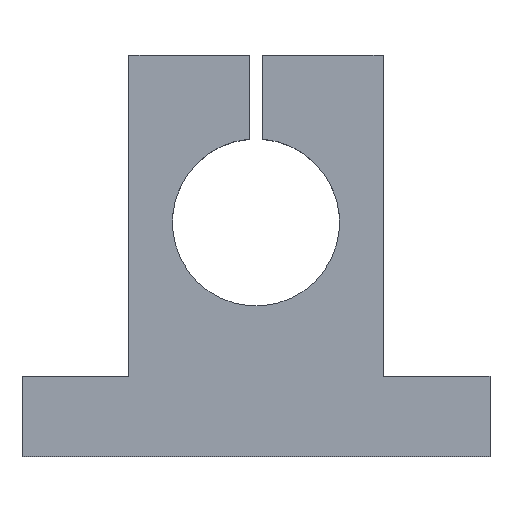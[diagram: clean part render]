
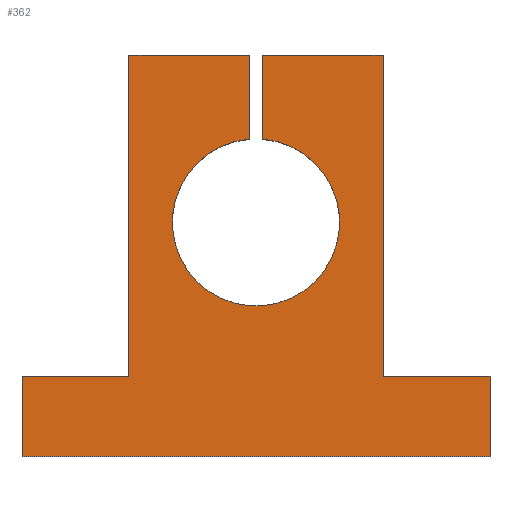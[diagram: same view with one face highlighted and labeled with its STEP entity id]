
A CAD part, top view. The second image highlights one B-rep face of the part: STEP entity #362.
In plain terms, the highlighted planar face has unit normal (0, 0, 1).
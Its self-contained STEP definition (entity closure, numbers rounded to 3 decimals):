
#27=CIRCLE('',#397,12.5);
#47=ORIENTED_EDGE('',*,*,#139,.F.);
#48=ORIENTED_EDGE('',*,*,#135,.T.);
#49=ORIENTED_EDGE('',*,*,#140,.T.);
#50=ORIENTED_EDGE('',*,*,#141,.T.);
#51=ORIENTED_EDGE('',*,*,#142,.T.);
#52=ORIENTED_EDGE('',*,*,#143,.T.);
#53=ORIENTED_EDGE('',*,*,#144,.T.);
#54=ORIENTED_EDGE('',*,*,#145,.T.);
#55=ORIENTED_EDGE('',*,*,#146,.T.);
#56=ORIENTED_EDGE('',*,*,#147,.T.);
#57=ORIENTED_EDGE('',*,*,#132,.F.);
#58=ORIENTED_EDGE('',*,*,#148,.F.);
#132=EDGE_CURVE('',#178,#179,#212,.T.);
#135=EDGE_CURVE('',#181,#182,#214,.T.);
#139=EDGE_CURVE('',#181,#185,#218,.T.);
#140=EDGE_CURVE('',#182,#186,#219,.T.);
#141=EDGE_CURVE('',#186,#187,#220,.T.);
#142=EDGE_CURVE('',#187,#188,#221,.T.);
#143=EDGE_CURVE('',#188,#189,#222,.T.);
#144=EDGE_CURVE('',#189,#190,#223,.T.);
#145=EDGE_CURVE('',#190,#191,#224,.T.);
#146=EDGE_CURVE('',#191,#192,#225,.T.);
#147=EDGE_CURVE('',#192,#179,#226,.T.);
#148=EDGE_CURVE('',#185,#178,#27,.T.);
#178=VERTEX_POINT('',#531);
#179=VERTEX_POINT('',#533);
#181=VERTEX_POINT('',#539);
#182=VERTEX_POINT('',#540);
#185=VERTEX_POINT('',#548);
#186=VERTEX_POINT('',#550);
#187=VERTEX_POINT('',#552);
#188=VERTEX_POINT('',#554);
#189=VERTEX_POINT('',#556);
#190=VERTEX_POINT('',#558);
#191=VERTEX_POINT('',#560);
#192=VERTEX_POINT('',#562);
#212=LINE('',#532,#246);
#214=LINE('',#538,#248);
#218=LINE('',#547,#252);
#219=LINE('',#549,#253);
#220=LINE('',#551,#254);
#221=LINE('',#553,#255);
#222=LINE('',#555,#256);
#223=LINE('',#557,#257);
#224=LINE('',#559,#258);
#225=LINE('',#561,#259);
#226=LINE('',#563,#260);
#246=VECTOR('',#431,1000.);
#248=VECTOR('',#437,1000.);
#252=VECTOR('',#443,1000.);
#253=VECTOR('',#444,1000.);
#254=VECTOR('',#445,1000.);
#255=VECTOR('',#446,1000.);
#256=VECTOR('',#447,1000.);
#257=VECTOR('',#448,1000.);
#258=VECTOR('',#449,1000.);
#259=VECTOR('',#450,1000.);
#260=VECTOR('',#451,1000.);
#281=EDGE_LOOP('',(#47,#48,#49,#50,#51,#52,#53,#54,#55,#56,#57,#58));
#315=FACE_BOUND('',#281,.T.);
#348=PLANE('',#396);
#362=ADVANCED_FACE('',(#315),#348,.T.);
#396=AXIS2_PLACEMENT_3D('',#546,#441,#442);
#397=AXIS2_PLACEMENT_3D('',#564,#452,#453);
#431=DIRECTION('',(0.,1.,0.));
#437=DIRECTION('',(-1.,0.,0.));
#441=DIRECTION('',(0.,0.,1.));
#442=DIRECTION('',(1.,0.,0.));
#443=DIRECTION('',(0.,-1.,0.));
#444=DIRECTION('',(0.,-1.,0.));
#445=DIRECTION('',(-1.,0.,0.));
#446=DIRECTION('',(0.,-1.,0.));
#447=DIRECTION('',(1.,0.,0.));
#448=DIRECTION('',(0.,1.,0.));
#449=DIRECTION('',(-1.,0.,0.));
#450=DIRECTION('',(0.,1.,0.));
#451=DIRECTION('',(-1.,0.,0.));
#452=DIRECTION('',(0.,0.,1.));
#453=DIRECTION('',(1.,0.,0.));
#531=CARTESIAN_POINT('',(1.,12.46,12.));
#532=CARTESIAN_POINT('',(1.,25.,12.));
#533=CARTESIAN_POINT('',(1.,25.,12.));
#538=CARTESIAN_POINT('',(19.,25.,12.));
#539=CARTESIAN_POINT('',(-1.,25.,12.));
#540=CARTESIAN_POINT('',(-19.,25.,12.));
#546=CARTESIAN_POINT('',(35.,-23.,12.));
#547=CARTESIAN_POINT('',(-1.,25.,12.));
#548=CARTESIAN_POINT('',(-1.,12.46,12.));
#549=CARTESIAN_POINT('',(-19.,-23.,12.));
#550=CARTESIAN_POINT('',(-19.,-23.,12.));
#551=CARTESIAN_POINT('',(-35.,-23.,12.));
#552=CARTESIAN_POINT('',(-35.,-23.,12.));
#553=CARTESIAN_POINT('',(-35.,-35.,12.));
#554=CARTESIAN_POINT('',(-35.,-35.,12.));
#555=CARTESIAN_POINT('',(-35.,-35.,12.));
#556=CARTESIAN_POINT('',(35.,-35.,12.));
#557=CARTESIAN_POINT('',(35.,-35.,12.));
#558=CARTESIAN_POINT('',(35.,-23.,12.));
#559=CARTESIAN_POINT('',(35.,-23.,12.));
#560=CARTESIAN_POINT('',(19.,-23.,12.));
#561=CARTESIAN_POINT('',(19.,-23.,12.));
#562=CARTESIAN_POINT('',(19.,25.,12.));
#563=CARTESIAN_POINT('',(19.,25.,12.));
#564=CARTESIAN_POINT('',(0.,0.,12.));
